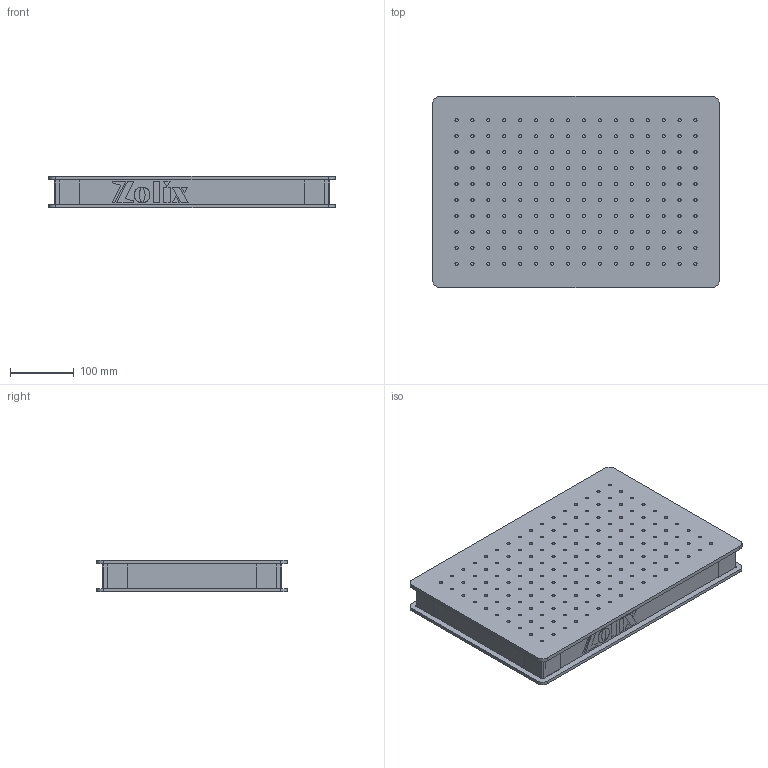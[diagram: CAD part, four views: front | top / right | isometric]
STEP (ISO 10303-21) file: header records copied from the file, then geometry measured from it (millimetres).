
FILE_DESCRIPTION (( 'STEP AP203' ), '1' );
FILE_NAME ('OTBB345-50 怢醱.STEP', '2019-05-09T08:28:33', ( 'User' ), ( 'User' ), 'SwSTEP 2.0', 'SolidWorks 2016', '' );
FILE_SCHEMA (( 'CONFIG_CONTROL_DESIGN' ));
Length unit declared in the file: millimetre
Products named in the file (1): OTBB345-50 怢醱
Bounding box: 450 x 300 x 50 mm (x, y, z)
Surface area: 634430.1 mm2 (no closed solid volume)
Topology: 0 solids, 30 shells, 402 faces, 1420 edges, 1050 vertices
Faces by surface type: cylinder 332, plane 70
Entity records: 16298 total; most frequent: DIRECTION 2890, CARTESIAN_POINT 2873, ORIENTED_EDGE 2464, EDGE_CURVE 1420, AXIS2_PLACEMENT_3D 1067, VERTEX_POINT 1050, LINE 756, VECTOR 756
